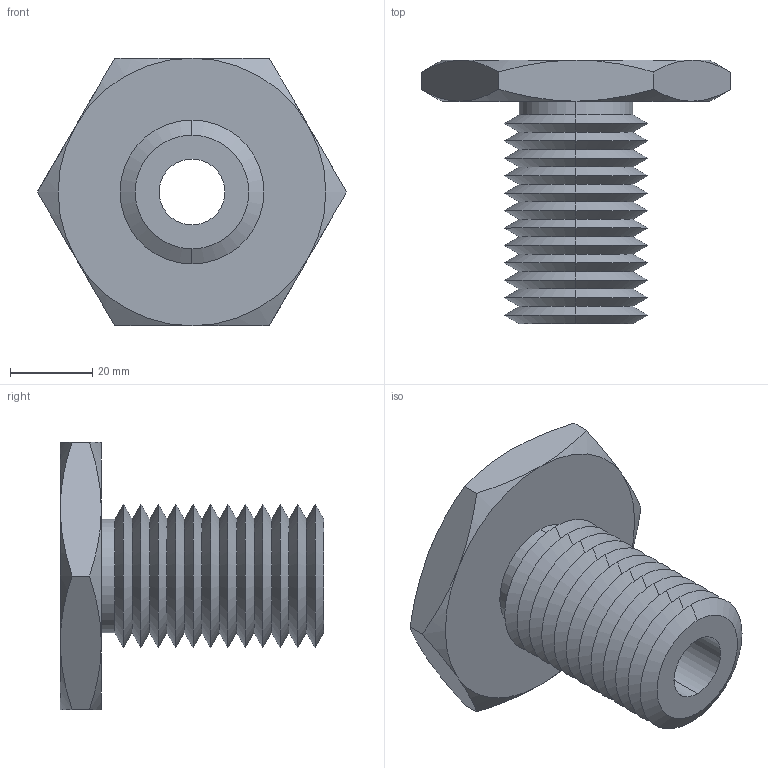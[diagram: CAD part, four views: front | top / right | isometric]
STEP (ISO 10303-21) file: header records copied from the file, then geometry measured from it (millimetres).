
FILE_DESCRIPTION (( 'STEP AP203' ), '1' );
FILE_NAME ('63302.W5138_M16x2.step', '2013-12-08T11:41:44', ( 'User' ), ( '' ), 'SwSTEP 2.0', 'SolidWorks 2009', '' );
FILE_SCHEMA (( 'CONFIG_CONTROL_DESIGN' ));
Length unit declared in the file: millimetre
Products named in the file (1): 63302.W5138_M16x2
Bounding box: 75.06 x 64 x 65 mm (x, y, z)
Volume: 64107.5 mm3; surface area: 22240.8 mm2
Topology: 1 solids, 1 shells, 75 faces, 154 edges, 82 vertices
Faces by surface type: cone 62, plane 9, cylinder 4
Entity records: 2139 total; most frequent: CARTESIAN_POINT 496, DIRECTION 352, ORIENTED_EDGE 308, EDGE_CURVE 154, AXIS2_PLACEMENT_3D 146, VERTEX_POINT 82, EDGE_LOOP 78, ADVANCED_FACE 75
